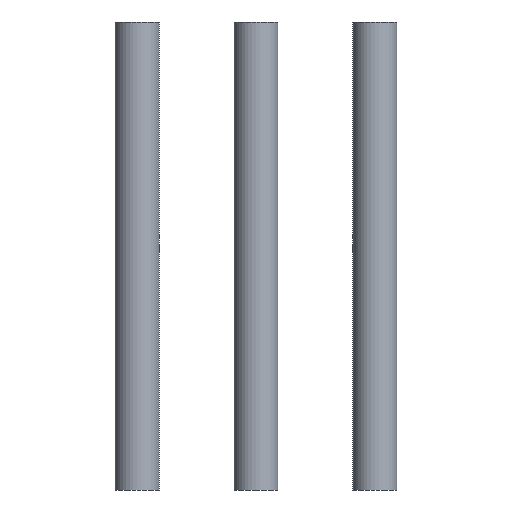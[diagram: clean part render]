
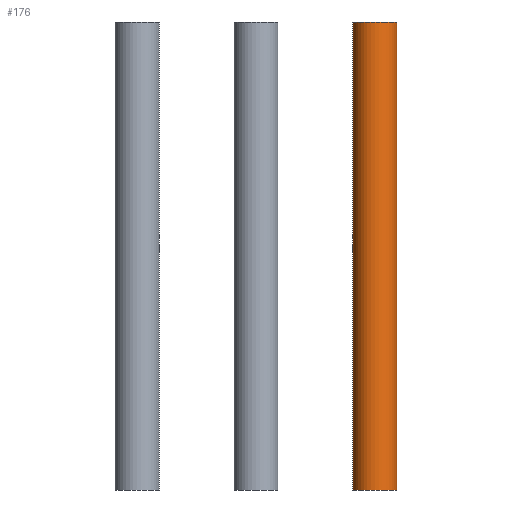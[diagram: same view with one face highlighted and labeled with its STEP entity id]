
A CAD part, front view. The second image highlights one B-rep face of the part: STEP entity #176.
In plain terms, the highlighted cylindrical face has radius 1.194 mm (diameter 2.388 mm), a full revolution.
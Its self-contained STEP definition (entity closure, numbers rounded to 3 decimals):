
#27=LINE('',#327,#33);
#33=VECTOR('',#268,1.194);
#39=CYLINDRICAL_SURFACE('',#218,1.194);
#50=FACE_OUTER_BOUND('',#68,.T.);
#68=EDGE_LOOP('',(#134,#135,#136,#137));
#83=CIRCLE('',#217,1.194);
#84=CIRCLE('',#219,1.194);
#95=VERTEX_POINT('',#322);
#96=VERTEX_POINT('',#325);
#109=EDGE_CURVE('',#95,#95,#83,.T.);
#110=EDGE_CURVE('',#96,#96,#84,.T.);
#111=EDGE_CURVE('',#96,#95,#27,.T.);
#134=ORIENTED_EDGE('',*,*,#110,.F.);
#135=ORIENTED_EDGE('',*,*,#111,.T.);
#136=ORIENTED_EDGE('',*,*,#109,.F.);
#137=ORIENTED_EDGE('',*,*,#111,.F.);
#176=ADVANCED_FACE('',(#50),#39,.T.);
#217=AXIS2_PLACEMENT_3D('',#323,#262,#263);
#218=AXIS2_PLACEMENT_3D('',#324,#264,#265);
#219=AXIS2_PLACEMENT_3D('',#326,#266,#267);
#262=DIRECTION('center_axis',(0.,0.,-1.));
#263=DIRECTION('ref_axis',(0.5,0.866,0.));
#264=DIRECTION('center_axis',(0.,0.,
1.));
#265=DIRECTION('ref_axis',(0.5,0.866,0.));
#266=DIRECTION('center_axis',(0.,0.,1.));
#267=DIRECTION('ref_axis',(0.5,0.866,0.));
#268=DIRECTION('',(0.,0.,-1.));
#322=CARTESIAN_POINT('',(-18.561,-4.759,8.65));
#323=CARTESIAN_POINT('Origin',(-17.964,-3.725,8.65));
#324=CARTESIAN_POINT('Origin',(-17.964,-3.725,15.));
#325=CARTESIAN_POINT('',(-18.561,-4.759,34.05));
#326=CARTESIAN_POINT('Origin',(-17.964,-3.725,34.05));
#327=CARTESIAN_POINT('',(-18.561,-4.759,15.));
